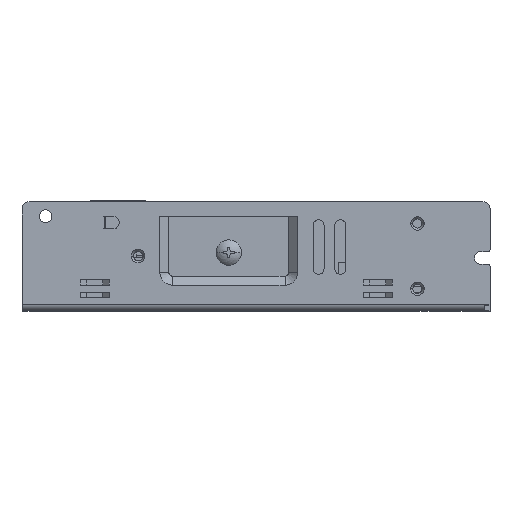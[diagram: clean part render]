
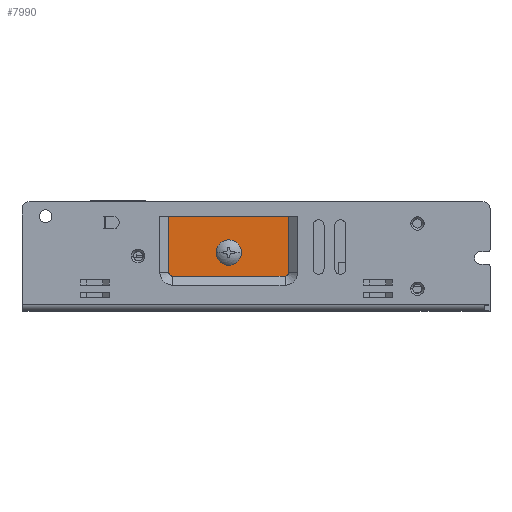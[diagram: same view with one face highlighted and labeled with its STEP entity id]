
A CAD part, top view. The second image highlights one B-rep face of the part: STEP entity #7990.
In plain terms, the highlighted planar face has unit normal (0, 0, 1).
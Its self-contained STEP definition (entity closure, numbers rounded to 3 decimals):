
#1776=DIRECTION('',(0.,1.,0.));
#1777=VECTOR('',#1776,15.5);
#1778=CARTESIAN_POINT('',(9.75,10.5,46.));
#1779=LINE('',#1778,#1777);
#1792=DIRECTION('',(1.,0.,0.));
#1793=VECTOR('',#1792,31.);
#1794=CARTESIAN_POINT('',(-22.25,9.5,46.));
#1795=LINE('',#1794,#1793);
#1808=DIRECTION('',(0.,-1.,0.));
#1809=VECTOR('',#1808,15.5);
#1810=CARTESIAN_POINT('',(-23.25,26.,46.));
#1811=LINE('',#1810,#1809);
#1870=DIRECTION('',(-1.,0.,0.));
#1871=VECTOR('',#1870,33.);
#1872=CARTESIAN_POINT('',(9.75,26.,46.));
#1873=LINE('',#1872,#1871);
#1882=CARTESIAN_POINT('',(8.75,10.5,46.));
#1883=DIRECTION('',(0.,0.,-1.));
#1884=DIRECTION('',(1.,0.,0.));
#1885=AXIS2_PLACEMENT_3D('',#1882,#1883,#1884);
#1887=CARTESIAN_POINT('',(-22.25,10.5,46.));
#1888=DIRECTION('',(0.,0.,-1.));
#1889=DIRECTION('',(0.,-1.,0.));
#1890=AXIS2_PLACEMENT_3D('',#1887,#1888,#1889);
#1892=CARTESIAN_POINT('',(-6.75,16.,46.));
#1893=DIRECTION('',(0.,0.,1.));
#1894=DIRECTION('',(-1.,0.,0.));
#1895=AXIS2_PLACEMENT_3D('',#1892,#1893,#1894);
#1897=CARTESIAN_POINT('',(-6.75,16.,46.));
#1898=DIRECTION('',(0.,0.,1.));
#1899=DIRECTION('',(1.,0.,0.));
#1900=AXIS2_PLACEMENT_3D('',#1897,#1898,#1899);
#4657=CARTESIAN_POINT('',(9.75,26.,46.));
#4658=VERTEX_POINT('',#4657);
#4661=CARTESIAN_POINT('',(9.75,10.5,46.));
#4662=VERTEX_POINT('',#4661);
#4663=CARTESIAN_POINT('',(8.75,9.5,46.));
#4664=VERTEX_POINT('',#4663);
#4665=CARTESIAN_POINT('',(-22.25,9.5,46.));
#4666=VERTEX_POINT('',#4665);
#4667=CARTESIAN_POINT('',(-23.25,10.5,46.));
#4668=VERTEX_POINT('',#4667);
#4669=CARTESIAN_POINT('',(-23.25,26.,46.));
#4670=VERTEX_POINT('',#4669);
#4681=CARTESIAN_POINT('',(-8.5,16.,46.));
#4682=CARTESIAN_POINT('',(-5.,16.,46.));
#4683=VERTEX_POINT('',#4681);
#4684=VERTEX_POINT('',#4682);
#7971=CARTESIAN_POINT('',(-6.75,16.5,46.));
#7972=DIRECTION('',(0.,0.,-1.));
#7973=DIRECTION('',(-1.,0.,0.));
#7974=AXIS2_PLACEMENT_3D('',#7971,#7972,#7973);
#7975=PLANE('',#7974);
#7976=ORIENTED_EDGE('',*,*,#7812,.F.);
#7977=ORIENTED_EDGE('',*,*,#7955,.F.);
#7978=ORIENTED_EDGE('',*,*,#7728,.F.);
#7979=ORIENTED_EDGE('',*,*,#7749,.T.);
#7980=ORIENTED_EDGE('',*,*,#7770,.F.);
#7981=ORIENTED_EDGE('',*,*,#7791,.T.);
#7982=EDGE_LOOP('',(#7976,#7977,#7978,#7979,#7980,#7981));
#7983=FACE_OUTER_BOUND('',#7982,.F.);
#7985=ORIENTED_EDGE('',*,*,#7984,.T.);
#7987=ORIENTED_EDGE('',*,*,#7986,.T.);
#7988=EDGE_LOOP('',(#7985,#7987));
#7989=FACE_BOUND('',#7988,.F.);
#1886=CIRCLE('',#1885,1.);
#1891=CIRCLE('',#1890,1.);
#1896=CIRCLE('',#1895,1.75);
#1901=CIRCLE('',#1900,1.75);
#7728=EDGE_CURVE('',#4662,#4658,#1779,.T.);
#7749=EDGE_CURVE('',#4662,#4664,#1886,.T.);
#7770=EDGE_CURVE('',#4666,#4664,#1795,.T.);
#7791=EDGE_CURVE('',#4666,#4668,#1891,.T.);
#7812=EDGE_CURVE('',#4670,#4668,#1811,.T.);
#7955=EDGE_CURVE('',#4658,#4670,#1873,.T.);
#7984=EDGE_CURVE('',#4683,#4684,#1896,.T.);
#7986=EDGE_CURVE('',#4684,#4683,#1901,.T.);
#7990=ADVANCED_FACE('',(#7983,#7989),#7975,.F.);
